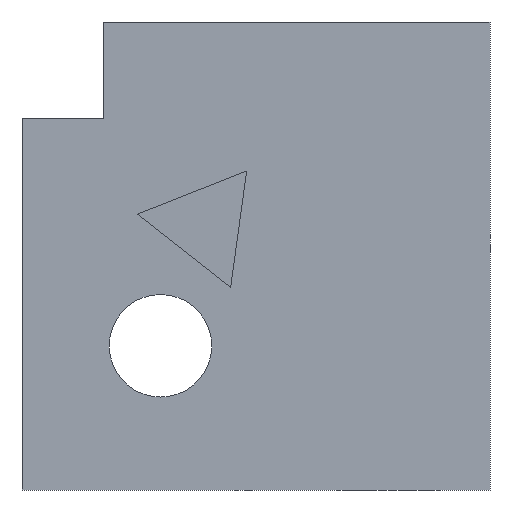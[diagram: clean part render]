
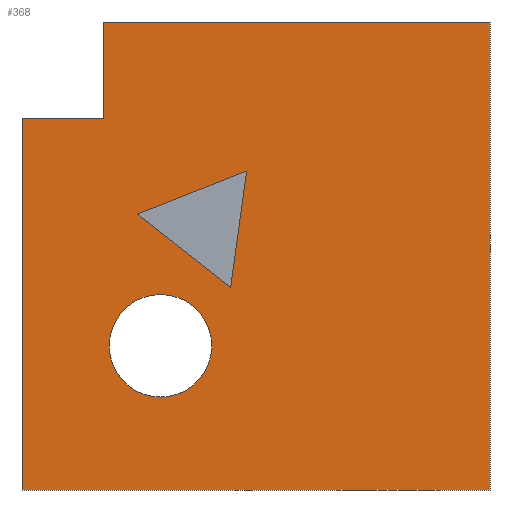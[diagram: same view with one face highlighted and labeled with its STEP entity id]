
A CAD part, front view. The second image highlights one B-rep face of the part: STEP entity #368.
In plain terms, the highlighted planar face has unit normal (0, -1, 0).
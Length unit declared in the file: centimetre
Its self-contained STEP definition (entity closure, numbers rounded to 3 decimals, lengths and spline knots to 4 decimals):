
#5 = DIRECTION ( 'NONE',  ( 0., -1., 0. ) ) ;
#7 = EDGE_CURVE ( 'NONE', #507, #591, #345, .T. ) ;
#26 = EDGE_CURVE ( 'NONE', #52, #129, #146, .T. ) ;
#29 = VERTEX_POINT ( 'NONE', #297 ) ;
#37 = DIRECTION ( 'NONE',  ( 1., 0., 0. ) ) ;
#52 = VERTEX_POINT ( 'NONE', #552 ) ;
#55 = EDGE_CURVE ( 'NONE', #591, #129, #643, .T. ) ;
#57 = LINE ( 'NONE', #253, #293 ) ;
#59 = FACE_BOUND ( 'NONE', #124, .T. ) ;
#62 = DIRECTION ( 'NONE',  ( 0., 1., 0. ) ) ;
#67 = ORIENTED_EDGE ( 'NONE', *, *, #559, .T. ) ;
#69 = VECTOR ( 'NONE', #196, 100. ) ;
#70 = VECTOR ( 'NONE', #115, 100. ) ;
#91 = CARTESIAN_POINT ( 'NONE',  ( 0., 0., 0. ) ) ;
#99 = DIRECTION ( 'NONE',  ( 0., 0., 1. ) ) ;
#108 = DIRECTION ( 'NONE',  ( -0.93, 0., -0.368 ) ) ;
#112 = EDGE_LOOP ( 'NONE', ( #455, #176, #558 ) ) ;
#115 = DIRECTION ( 'NONE',  ( 0., 0., -1. ) ) ;
#119 = ORIENTED_EDGE ( 'NONE', *, *, #266, .T. ) ;
#121 = EDGE_CURVE ( 'NONE', #135, #600, #57, .T. ) ;
#124 = EDGE_LOOP ( 'NONE', ( #619, #571 ) ) ;
#129 = VERTEX_POINT ( 'NONE', #398 ) ;
#134 = CARTESIAN_POINT ( 'NONE',  ( 0., 0., 1000. ) ) ;
#135 = VERTEX_POINT ( 'NONE', #378 ) ;
#145 = CARTESIAN_POINT ( 'NONE',  ( 295.96, 0., 308.1501 ) ) ;
#146 = LINE ( 'NONE', #91, #446 ) ;
#169 = LINE ( 'NONE', #639, #70 ) ;
#171 = EDGE_CURVE ( 'NONE', #507, #29, #348, .T. ) ;
#172 = VECTOR ( 'NONE', #658, 100. ) ;
#176 = ORIENTED_EDGE ( 'NONE', *, *, #219, .F. ) ;
#194 = DIRECTION ( 'NONE',  ( 0.137, 0., 0.991 ) ) ;
#196 = DIRECTION ( 'NONE',  ( -1., 0., 0. ) ) ;
#213 = CARTESIAN_POINT ( 'NONE',  ( 479.9484, 0., 681.6138 ) ) ;
#219 = EDGE_CURVE ( 'NONE', #600, #342, #467, .T. ) ;
#249 = EDGE_CURVE ( 'NONE', #481, #629, #664, .T. ) ;
#253 = CARTESIAN_POINT ( 'NONE',  ( 246.8718, 0., 589.4816 ) ) ;
#256 = CARTESIAN_POINT ( 'NONE',  ( 295.96, 0., 198.6535 ) ) ;
#259 = PLANE ( 'NONE',  #657 ) ;
#266 = EDGE_CURVE ( 'NONE', #29, #335, #668, .T. ) ;
#267 = LINE ( 'NONE', #213, #648 ) ;
#269 = VECTOR ( 'NONE', #400, 100. ) ;
#272 = EDGE_CURVE ( 'NONE', #629, #481, #607, .T. ) ;
#278 = DIRECTION ( 'NONE',  ( 1., 0., 0. ) ) ;
#293 = VECTOR ( 'NONE', #621, 100. ) ;
#297 = CARTESIAN_POINT ( 'NONE',  ( 174.0997, 0., 793.9155 ) ) ;
#299 = ORIENTED_EDGE ( 'NONE', *, *, #26, .T. ) ;
#335 = VERTEX_POINT ( 'NONE', #421 ) ;
#342 = VERTEX_POINT ( 'NONE', #482 ) ;
#344 = VECTOR ( 'NONE', #278, 100. ) ;
#345 = LINE ( 'NONE', #134, #344 ) ;
#348 = LINE ( 'NONE', #463, #172 ) ;
#356 = DIRECTION ( 'NONE',  ( 0., -1., 0. ) ) ;
#368 = ADVANCED_FACE ( 'NONE', ( #589, #59, #429 ), #259, .F. ) ;
#369 = CARTESIAN_POINT ( 'NONE',  ( 1000., 0., 1000. ) ) ;
#378 = CARTESIAN_POINT ( 'NONE',  ( 246.8718, 0., 589.4816 ) ) ;
#386 = EDGE_CURVE ( 'NONE', #342, #135, #267, .T. ) ;
#387 = ORIENTED_EDGE ( 'NONE', *, *, #171, .T. ) ;
#398 = CARTESIAN_POINT ( 'NONE',  ( 1000., 0., 0. ) ) ;
#400 = DIRECTION ( 'NONE',  ( 0., 0., -1. ) ) ;
#417 = CARTESIAN_POINT ( 'NONE',  ( 295.96, 0., 308.1501 ) ) ;
#420 = EDGE_LOOP ( 'NONE', ( #387, #119, #67, #299, #448, #609 ) ) ;
#421 = CARTESIAN_POINT ( 'NONE',  ( 0., 0., 793.9155 ) ) ;
#429 = FACE_OUTER_BOUND ( 'NONE', #420, .T. ) ;
#446 = VECTOR ( 'NONE', #37, 100. ) ;
#448 = ORIENTED_EDGE ( 'NONE', *, *, #55, .F. ) ;
#455 = ORIENTED_EDGE ( 'NONE', *, *, #386, .F. ) ;
#463 = CARTESIAN_POINT ( 'NONE',  ( 174.0997, 0., 793.9155 ) ) ;
#467 = LINE ( 'NONE', #663, #617 ) ;
#472 = CARTESIAN_POINT ( 'NONE',  ( 0., 0., 793.9155 ) ) ;
#481 = VERTEX_POINT ( 'NONE', #520 ) ;
#482 = CARTESIAN_POINT ( 'NONE',  ( 479.9484, 0., 681.6138 ) ) ;
#488 = CARTESIAN_POINT ( 'NONE',  ( 0., 0., 1000. ) ) ;
#489 = DIRECTION ( 'NONE',  ( 0., 0., -1. ) ) ;
#499 = CARTESIAN_POINT ( 'NONE',  ( 1000., 0., 1000. ) ) ;
#507 = VERTEX_POINT ( 'NONE', #667 ) ;
#515 = AXIS2_PLACEMENT_3D ( 'NONE', #145, #356, #612 ) ;
#520 = CARTESIAN_POINT ( 'NONE',  ( 295.96, 0., 417.6468 ) ) ;
#536 = CARTESIAN_POINT ( 'NONE',  ( 445.6991, 0., 433.1228 ) ) ;
#552 = CARTESIAN_POINT ( 'NONE',  ( 0., 0., 0. ) ) ;
#558 = ORIENTED_EDGE ( 'NONE', *, *, #121, .F. ) ;
#559 = EDGE_CURVE ( 'NONE', #335, #52, #169, .T. ) ;
#571 = ORIENTED_EDGE ( 'NONE', *, *, #249, .F. ) ;
#581 = AXIS2_PLACEMENT_3D ( 'NONE', #417, #5, #489 ) ;
#589 = FACE_BOUND ( 'NONE', #112, .T. ) ;
#591 = VERTEX_POINT ( 'NONE', #369 ) ;
#600 = VERTEX_POINT ( 'NONE', #536 ) ;
#607 = CIRCLE ( 'NONE', #515, 109.4967 ) ;
#609 = ORIENTED_EDGE ( 'NONE', *, *, #7, .F. ) ;
#612 = DIRECTION ( 'NONE',  ( 0., 0., -1. ) ) ;
#617 = VECTOR ( 'NONE', #194, 100. ) ;
#619 = ORIENTED_EDGE ( 'NONE', *, *, #272, .F. ) ;
#621 = DIRECTION ( 'NONE',  ( 0.786, 0., -0.618 ) ) ;
#629 = VERTEX_POINT ( 'NONE', #256 ) ;
#639 = CARTESIAN_POINT ( 'NONE',  ( 0., 0., 1000. ) ) ;
#643 = LINE ( 'NONE', #499, #269 ) ;
#648 = VECTOR ( 'NONE', #108, 100. ) ;
#657 = AXIS2_PLACEMENT_3D ( 'NONE', #488, #62, #99 ) ;
#658 = DIRECTION ( 'NONE',  ( 0., 0., -1. ) ) ;
#663 = CARTESIAN_POINT ( 'NONE',  ( 445.6991, 0., 433.1228 ) ) ;
#664 = CIRCLE ( 'NONE', #581, 109.4967 ) ;
#667 = CARTESIAN_POINT ( 'NONE',  ( 174.0997, 0., 1000. ) ) ;
#668 = LINE ( 'NONE', #472, #69 ) ;
